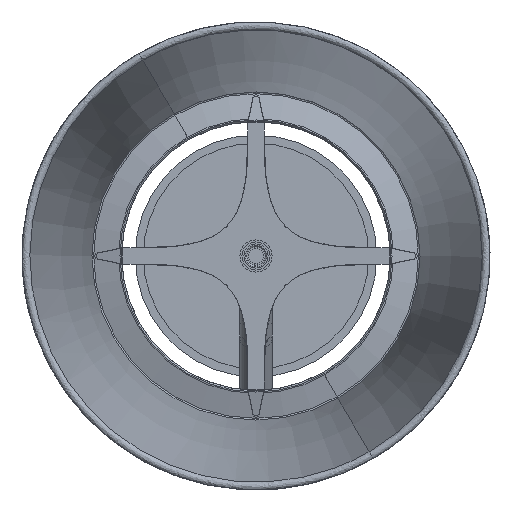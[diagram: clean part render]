
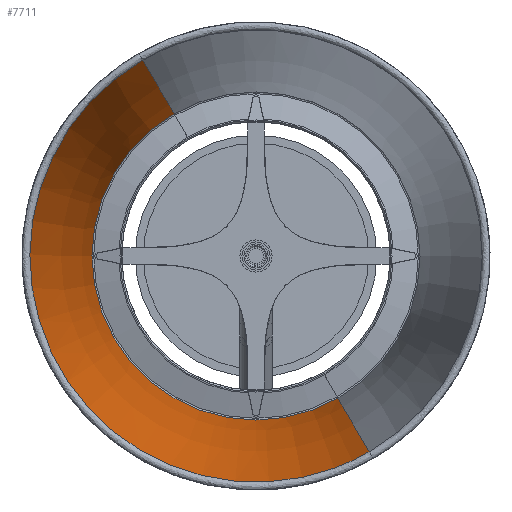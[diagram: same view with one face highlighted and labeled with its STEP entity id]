
A CAD part, front view. The second image highlights one B-rep face of the part: STEP entity #7711.
In plain terms, the highlighted toroidal (fillet/blend) face has major radius 1183.62 mm and minor radius 1123 mm.
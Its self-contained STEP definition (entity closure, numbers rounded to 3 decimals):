
#186 = CIRCLE ( 'NONE', #8021, 61.113 ) ;
#379 = CARTESIAN_POINT ( 'NONE',  ( -20.225, 60.896, -51.025 ) ) ;
#425 = DIRECTION ( 'NONE',  ( -0.5, 0., 0.866 ) ) ;
#601 = DIRECTION ( 'NONE',  ( 0.866, 0., 0.5 ) ) ;
#821 = VERTEX_POINT ( 'NONE', #2358 ) ;
#963 = CARTESIAN_POINT ( 'NONE',  ( -125.618, 60.896, 69.234 ) ) ;
#1008 = CARTESIAN_POINT ( 'NONE',  ( -136.761, 60.896, 21.496 ) ) ;
#1108 = CARTESIAN_POINT ( 'NONE',  ( -135.311, 60.896, 43.507 ) ) ;
#1221 = DIRECTION ( 'NONE',  ( 0.5, 0., -0.866 ) ) ;
#1404 = AXIS2_PLACEMENT_3D ( 'NONE', #2694, #2005, #7004 ) ;
#1613 = CARTESIAN_POINT ( 'NONE',  ( -69.013, 60.896, -55.809 ) ) ;
#1719 = CARTESIAN_POINT ( 'NONE',  ( -30.67, 60.896, -54.567 ) ) ;
#1855 = DIRECTION ( 'NONE',  ( 0.5, 0., -0.866 ) ) ;
#2005 = DIRECTION ( 'NONE',  ( 0., 1., 0. ) ) ;
#2029 = AXIS2_PLACEMENT_3D ( 'NONE', #4916, #2251, #425 ) ;
#2065 = VERTEX_POINT ( 'NONE', #2240 ) ;
#2173 = CIRCLE ( 'NONE', #2029, 1123. ) ;
#2203 = CARTESIAN_POINT ( 'NONE',  ( -47.003, 60.896, -57.259 ) ) ;
#2205 = TOROIDAL_SURFACE ( 'NONE', #1404, 1183.624, 1123. ) ;
#2240 = CARTESIAN_POINT ( 'NONE',  ( -10.401, 60.896, -45.985 ) ) ;
#2243 = CARTESIAN_POINT ( 'NONE',  ( -94.607, 60.896, 99.981 ) ) ;
#2251 = DIRECTION ( 'NONE',  ( -0.866, 0., -0.5 ) ) ;
#2327 = CARTESIAN_POINT ( 'NONE',  ( -94.741, 60.896, -46.116 ) ) ;
#2349 = VERTEX_POINT ( 'NONE', #5860 ) ;
#2358 = CARTESIAN_POINT ( 'NONE',  ( -83.042, 256.931, 79.934 ) ) ;
#2611 = CARTESIAN_POINT ( 'NONE',  ( 538.958, 290.069, -998.252 ) ) ;
#2694 = CARTESIAN_POINT ( 'NONE',  ( -52.504, 290.069, 26.998 ) ) ;
#2842 = CARTESIAN_POINT ( 'NONE',  ( -112.184, 60.896, 86.73 ) ) ;
#2906 = B_SPLINE_CURVE_WITH_KNOTS ( 'NONE', 3,
 ( #2243, #6701, #3002, #2842, #6657, #5430, #963, #4782, #4906, #1108, #4207, #6116, #1008, #7319, #4744, #3605, #5542, #8061, #6743, #7951, #7988, #7436, #2327, #5378, #3539, #1613, #7906, #6149, #2203, #4163, #1719, #379, #3488, #4866 ),
 .UNSPECIFIED., .F., .F.,
 ( 4, 2, 2, 2, 2, 2, 2, 2, 2, 2, 2, 2, 2, 2, 2, 2, 4 ),
 ( 0., 0.031, 0.062, 0.094, 0.125, 0.156, 0.187, 0.219, 0.25, 0.281, 0.312, 0.344, 0.375, 0.406, 0.437, 0.469, 0.5 ),
 .UNSPECIFIED. ) ;
#3002 = CARTESIAN_POINT ( 'NONE',  ( -103.889, 60.896, 93.999 ) ) ;
#3127 = CIRCLE ( 'NONE', #7771, 1123. ) ;
#3488 = CARTESIAN_POINT ( 'NONE',  ( -15.177, 60.896, -48.74 ) ) ;
#3539 = CARTESIAN_POINT ( 'NONE',  ( -79.665, 60.896, -52.951 ) ) ;
#3605 = CARTESIAN_POINT ( 'NONE',  ( -130.527, 60.896, -5.281 ) ) ;
#3758 = ORIENTED_EDGE ( 'NONE', *, *, #4165, .F. ) ;
#3948 = ORIENTED_EDGE ( 'NONE', *, *, #5996, .T. ) ;
#4163 = CARTESIAN_POINT ( 'NONE',  ( -36.067, 60.896, -55.824 ) ) ;
#4165 = EDGE_CURVE ( 'NONE', #2349, #2065, #3127, .T. ) ;
#4207 = CARTESIAN_POINT ( 'NONE',  ( -136.216, 60.896, 38.04 ) ) ;
#4679 = CARTESIAN_POINT ( 'NONE',  ( -94.607, 60.896, 99.981 ) ) ;
#4744 = CARTESIAN_POINT ( 'NONE',  ( -134.069, 60.896, 5.164 ) ) ;
#4782 = CARTESIAN_POINT ( 'NONE',  ( -130.499, 60.896, 59.344 ) ) ;
#4866 = CARTESIAN_POINT ( 'NONE',  ( -10.401, 60.896, -45.985 ) ) ;
#4906 = CARTESIAN_POINT ( 'NONE',  ( -132.453, 60.896, 54.159 ) ) ;
#4916 = CARTESIAN_POINT ( 'NONE',  ( -643.966, 290.069, 1052.248 ) ) ;
#5052 = FACE_OUTER_BOUND ( 'NONE', #7891, .T. ) ;
#5378 = CARTESIAN_POINT ( 'NONE',  ( -84.851, 60.896, -50.997 ) ) ;
#5430 = CARTESIAN_POINT ( 'NONE',  ( -122.69, 60.896, 73.939 ) ) ;
#5542 = CARTESIAN_POINT ( 'NONE',  ( -128.242, 60.896, -10.329 ) ) ;
#5665 = CARTESIAN_POINT ( 'NONE',  ( -52.504, 256.931, 26.998 ) ) ;
#5838 = ORIENTED_EDGE ( 'NONE', *, *, #6607, .T. ) ;
#5860 = CARTESIAN_POINT ( 'NONE',  ( -21.966, 256.931, -25.938 ) ) ;
#5996 = EDGE_CURVE ( 'NONE', #7262, #2065, #2906, .T. ) ;
#6116 = CARTESIAN_POINT ( 'NONE',  ( -136.941, 60.896, 27.035 ) ) ;
#6149 = CARTESIAN_POINT ( 'NONE',  ( -52.541, 60.896, -57.439 ) ) ;
#6607 = EDGE_CURVE ( 'NONE', #821, #7262, #2173, .T. ) ;
#6657 = CARTESIAN_POINT ( 'NONE',  ( -115.973, 60.896, 82.687 ) ) ;
#6701 = CARTESIAN_POINT ( 'NONE',  ( -99.384, 60.896, 97.225 ) ) ;
#6743 = CARTESIAN_POINT ( 'NONE',  ( -119.505, 60.896, -24.387 ) ) ;
#6751 = EDGE_CURVE ( 'NONE', #2349, #821, #186, .T. ) ;
#7004 = DIRECTION ( 'NONE',  ( 0.5, 0., -0.866 ) ) ;
#7262 = VERTEX_POINT ( 'NONE', #4679 ) ;
#7319 = CARTESIAN_POINT ( 'NONE',  ( -135.326, 60.896, 10.561 ) ) ;
#7436 = CARTESIAN_POINT ( 'NONE',  ( -99.445, 60.896, -43.188 ) ) ;
#7563 = DIRECTION ( 'NONE',  ( 0., 1., 0. ) ) ;
#7711 = ADVANCED_FACE ( 'NONE', ( #5052 ), #2205, .T. ) ;
#7771 = AXIS2_PLACEMENT_3D ( 'NONE', #2611, #601, #1221 ) ;
#7891 = EDGE_LOOP ( 'NONE', ( #8040, #5838, #3948, #3758 ) ) ;
#7906 = CARTESIAN_POINT ( 'NONE',  ( -63.546, 60.896, -56.714 ) ) ;
#7951 = CARTESIAN_POINT ( 'NONE',  ( -112.236, 60.896, -32.682 ) ) ;
#7988 = CARTESIAN_POINT ( 'NONE',  ( -108.193, 60.896, -36.471 ) ) ;
#8021 = AXIS2_PLACEMENT_3D ( 'NONE', #5665, #7563, #1855 ) ;
#8040 = ORIENTED_EDGE ( 'NONE', *, *, #6751, .T. ) ;
#8061 = CARTESIAN_POINT ( 'NONE',  ( -122.731, 60.896, -19.882 ) ) ;
